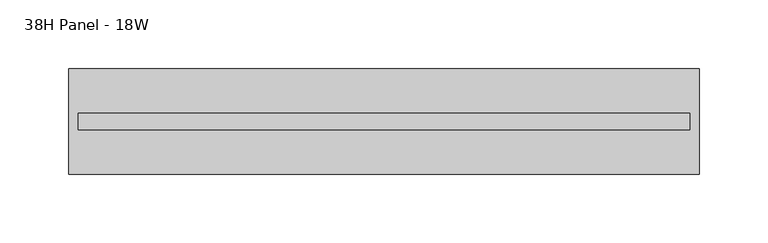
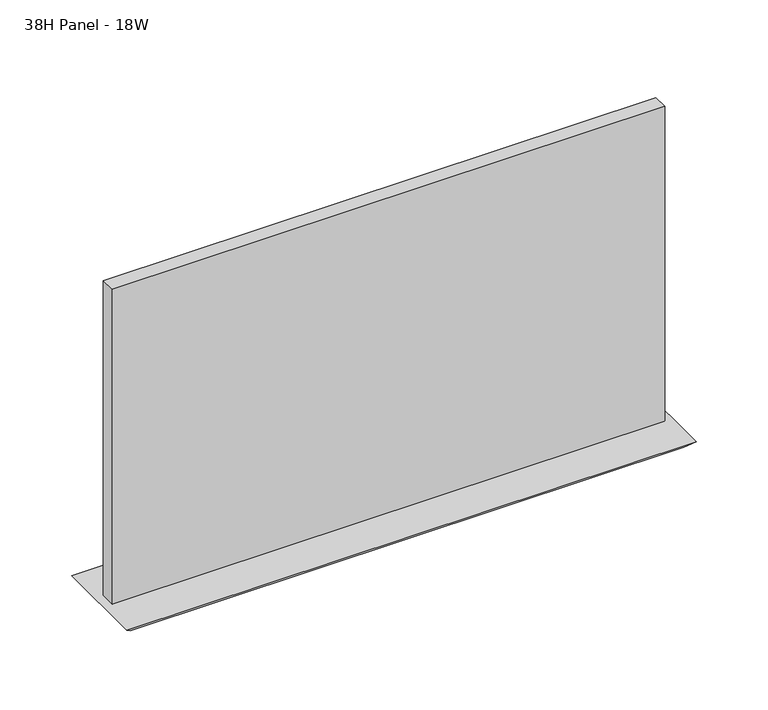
"""IFC4 building model written with IfcOpenShell, lengths in millimetres: furniture geometry, Steelcase - Montage - Tiles - 10H - Frameless Glass Stacker : 38H Panel - 18W."""

from ifc_helpers import new_model, si_unit, frame, origin, place, context, project, spatial, polyline, outline, extrude, faceted_brep, source, transform, mapped, element, save


def furniture_38h_panel_18w_221bd9e1(model_context):
    return source(origin(), model_context, "Body", "SolidModel", [
        faceted_brep([(457.2, -38.1000015, 958.85), (0.0, -38.1000015, 958.85), (6.35, -31.7500015, 952.5), (450.85, -31.7500015, 952.5), (6.35, 31.7500015, 952.5), (450.85, 31.7500015, 952.5), (0.0, 38.1000015, 958.85), (457.2, 38.1000015, 958.85)], [[[0, 1, 2, 3]], [[3, 2, 4, 5]], [[6, 7, 5, 4]], [[1, 0, 7, 6]], [[2, 1, 6, 4]], [[0, 3, 5, 7]]]),
        extrude(outline(polyline([(450.4181828, -5.9944001), (6.7818001, -5.9944001), (6.7818001, 5.9944008), (450.4181828, 5.9944008), (450.4181828, -5.9944001)])), frame((0.0, 0.0, 958.85), z_axis=(0.0, 0.0, 1.0), x_axis=(1.0, 0.0, 0.0)), (0.0, 0.0, 1.0), 267.7160475),
    ])


if __name__ == "__main__":
    model = new_model("IFC4")
    model_context = context("Model", 3, world=origin())
    ifc_project = project(units=[si_unit("LENGTHUNIT", "METRE", prefix="MILLI")], contexts=[model_context])
    site = spatial("IfcSite", under=ifc_project)
    building = spatial("IfcBuilding", under=site)
    placement = place(None, origin())
    furniture_38h_panel_18w_shape = furniture_38h_panel_18w_221bd9e1(model_context)
    element("IfcFurniture", 1, ObjectType="Steelcase - Montage - Tiles - 10H - Frameless Glass Stacker : 38H Panel - 18W", at=placement, inside=building, context=model_context, shape_type="MappedRepresentation", body=[
        mapped(furniture_38h_panel_18w_shape, transform((0.0, 0.0, 0.0), x_axis=(1.0, 0.0, 0.0), y_axis=(0.0, 1.0, 0.0), z_axis=(0.0, 0.0, 1.0))),
    ])
    save(model, "model.ifc")
